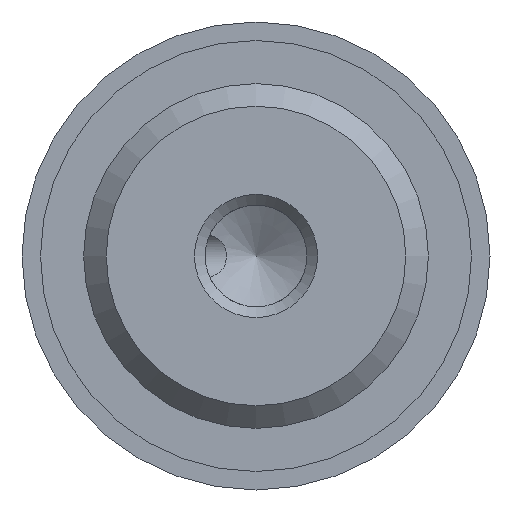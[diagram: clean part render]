
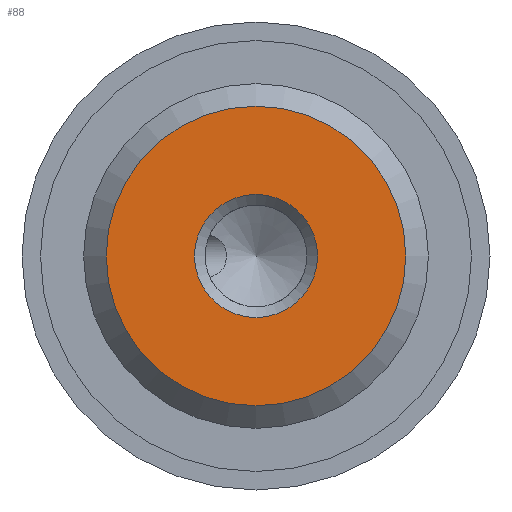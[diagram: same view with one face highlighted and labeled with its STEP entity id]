
A CAD part, front view. The second image highlights one B-rep face of the part: STEP entity #88.
In plain terms, the highlighted planar face has unit normal (0, -1, 0).
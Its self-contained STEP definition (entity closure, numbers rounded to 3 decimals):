
#88 = ADVANCED_FACE( '', ( #136, #137 ), #138, .F. );
#136 = FACE_BOUND( '', #202, .T. );
#137 = FACE_OUTER_BOUND( '', #203, .T. );
#138 = PLANE( '', #204 );
#202 = EDGE_LOOP( '', ( #316 ) );
#203 = EDGE_LOOP( '', ( #317 ) );
#204 = AXIS2_PLACEMENT_3D( '', #318, #319, #320 );
#316 = ORIENTED_EDGE( '', *, *, #434, .F. );
#317 = ORIENTED_EDGE( '', *, *, #435, .T. );
#318 = CARTESIAN_POINT( '', ( 6.08, 0., 0. ) );
#319 = DIRECTION( '', ( 0., 1., 0. ) );
#320 = DIRECTION( '', ( 0., 0., 1. ) );
#434 = EDGE_CURVE( '', #503, #503, #504, .T. );
#435 = EDGE_CURVE( '', #505, #505, #506, .T. );
#503 = VERTEX_POINT( '', #696 );
#504 = CIRCLE( '', #697, 2.5 );
#505 = VERTEX_POINT( '', #698 );
#506 = CIRCLE( '', #699, 6.08 );
#696 = CARTESIAN_POINT( '', ( 2.5, 0., 0. ) );
#697 = AXIS2_PLACEMENT_3D( '', #774, #775, #776 );
#698 = CARTESIAN_POINT( '', ( 0., 0., -6.08 ) );
#699 = AXIS2_PLACEMENT_3D( '', #777, #778, #779 );
#774 = CARTESIAN_POINT( '', ( 0., 0., 0. ) );
#775 = DIRECTION( '', ( 0., -1., 0. ) );
#776 = DIRECTION( '', ( 1., 0., 0. ) );
#777 = CARTESIAN_POINT( '', ( 0., 0., 0. ) );
#778 = DIRECTION( '', ( 0., -1., 0. ) );
#779 = DIRECTION( '', ( 0., 0., -1. ) );
